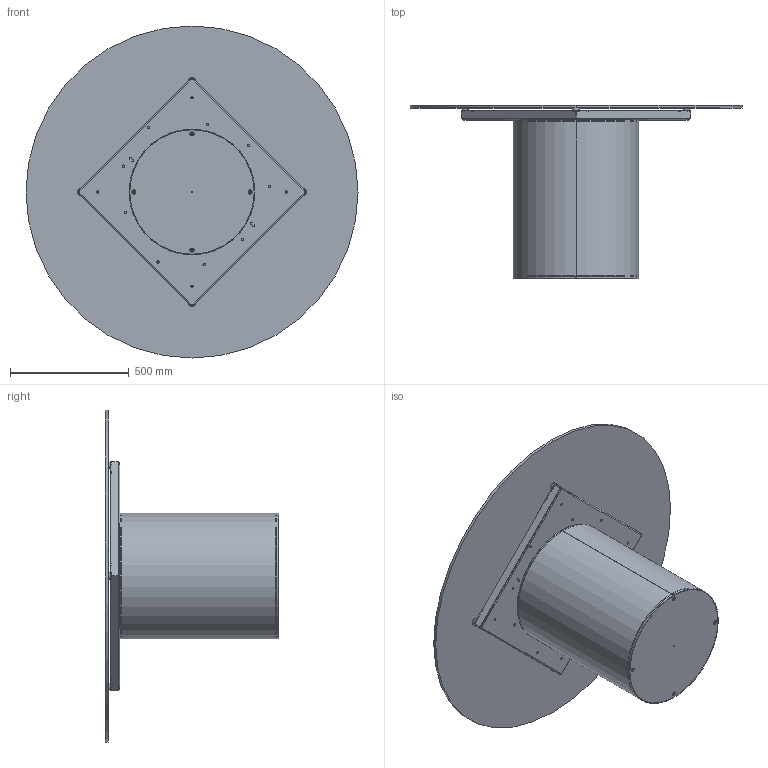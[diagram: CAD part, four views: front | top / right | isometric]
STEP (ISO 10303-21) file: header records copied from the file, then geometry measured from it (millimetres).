
FILE_DESCRIPTION (( 'STEP AP203' ), '1' );
FILE_NAME ('CI06G.STEP', '2024-08-08T07:00:45', ( '' ), ( '' ), 'SwSTEP 2.0', 'SolidWorks 2022', '' );
FILE_SCHEMA (( 'CONFIG_CONTROL_DESIGN' ));
Length unit declared in the file: millimetre
Products named in the file (11): C2B000000-03-CILINDRO BASE D.530mm_Normale; TTAV0801 TELAIO UNIVERSALE TONDO-PIASTRINA; C2B000000_01-00-struttura cilindro D.530mm; TTAV0801-02-TELAIO UNIVERSALE TONDO-VASSOIO; 434070-00-PIEDINO TPV GOMMA NERO D. 30x8max18_filo estetico; C1XCRMXX-00-piani Rotondi Cristallo_C06 D.140cm; M8xXXmm_hex_M8X20mm; C2B000000_02-01-ZAVORRA IN FERRO D.530mm; COLLO TELAIO UNIVERSALE TTAV0801 CON FERRAMENTA_MTG TOP CRISTALLO VERNICIATO-CERAMICA; CI06G; TTAV0801-02-TELAIO UNIVERSALE TONDO
Assembly tree (19 placements, depth 4):
  CI06G
    C2B000000-03-CILINDRO BASE D.530mm_Normale
      C2B000000_01-00-struttura cilindro D.530mm
      C2B000000_02-01-ZAVORRA IN FERRO D.530mm
      M8xXXmm_hex_M8X20mm  x4
    COLLO TELAIO UNIVERSALE TTAV0801 CON FERRAMENTA_MTG TOP CRISTALLO VERNICIATO-CERAMICA
      TTAV0801-02-TELAIO UNIVERSALE TONDO
        TTAV0801-02-TELAIO UNIVERSALE TONDO-VASSOIO
        TTAV0801 TELAIO UNIVERSALE TONDO-PIASTRINA  x4
      434070-00-PIEDINO TPV GOMMA NERO D. 30x8max18_filo estetico  x4
    C1XCRMXX-00-piani Rotondi Cristallo_C06 D.140cm
Bounding box: 1400 x 732 x 1400 mm (x, y, z)
Volume: 25793894.8 mm3; surface area: 7275710.8 mm2
Topology: 23 solids, 23 shells, 704 faces, 1776 edges, 1110 vertices
Faces by surface type: plane 332, cylinder 302, cone 32, torus 24, sphere 14
Entity records: 15444 total; most frequent: DIRECTION 2573, CARTESIAN_POINT 2386, ORIENTED_EDGE 2338, EDGE_CURVE 1169, AXIS2_PLACEMENT_3D 930, VERTEX_POINT 743, VECTOR 713, LINE 713
